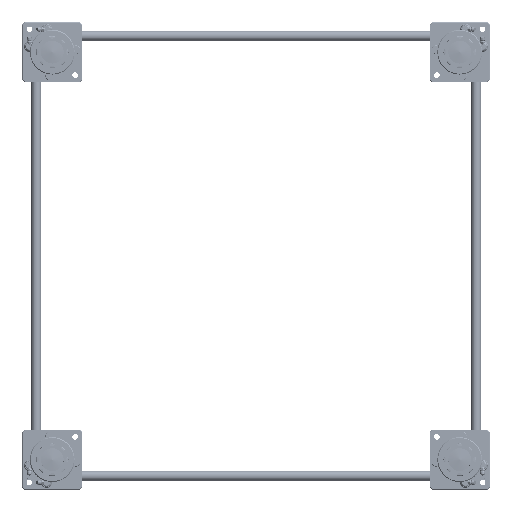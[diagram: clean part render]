
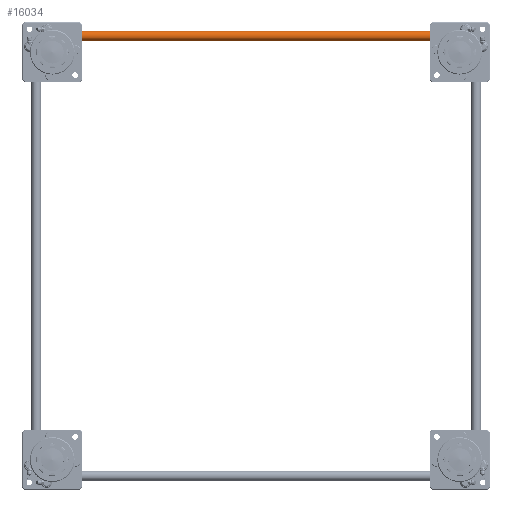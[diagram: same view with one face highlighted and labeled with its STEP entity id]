
A CAD part, top view. The second image highlights one B-rep face of the part: STEP entity #16034.
In plain terms, the highlighted cylindrical face has radius 6 mm (diameter 12 mm), a full revolution.
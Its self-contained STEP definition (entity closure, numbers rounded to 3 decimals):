
#16034=ADVANCED_FACE('',(#37061,#37062),#37063,.T.);
#37061=FACE_OUTER_BOUND('',#58419,.T.);
#37062=FACE_OUTER_BOUND('',#58420,.T.);
#37063=CYLINDRICAL_SURFACE('',#58421,6.0);
#58419=EDGE_LOOP('',(#143858));
#58420=EDGE_LOOP('',(#143859));
#58421=AXIS2_PLACEMENT_3D('',#143860,#143861,#143862);
#143858=ORIENTED_EDGE('',*,*,#171453,.T.);
#143859=ORIENTED_EDGE('',*,*,#171450,.T.);
#143860=CARTESIAN_POINT('',(0.0,0.0,515.0));
#143861=DIRECTION('',(0.0,0.0,-1.0));
#143862=DIRECTION('',(-1.0,0.0,0.0));
#171450=EDGE_CURVE('',#217526,#217526,#217527,.F.);
#171453=EDGE_CURVE('',#217532,#217532,#217533,.T.);
#217526=VERTEX_POINT('',#294634);
#217527=CIRCLE('',#294635,6.0);
#217532=VERTEX_POINT('',#294640);
#217533=CIRCLE('',#294641,6.0);
#294634=CARTESIAN_POINT('',(6.0,0.0,514.5));
#294635=AXIS2_PLACEMENT_3D('',#325002,#325003,#325004);
#294640=CARTESIAN_POINT('',(6.0,0.0,0.5));
#294641=AXIS2_PLACEMENT_3D('',#325011,#325012,#325013);
#325002=CARTESIAN_POINT('',(0.0,0.0,514.5));
#325003=DIRECTION('',(0.0,0.0,1.0));
#325004=DIRECTION('',(1.0,0.0,0.0));
#325011=CARTESIAN_POINT('',(0.0,0.0,0.5));
#325012=DIRECTION('',(0.0,0.0,1.0));
#325013=DIRECTION('',(1.0,0.0,0.0));
